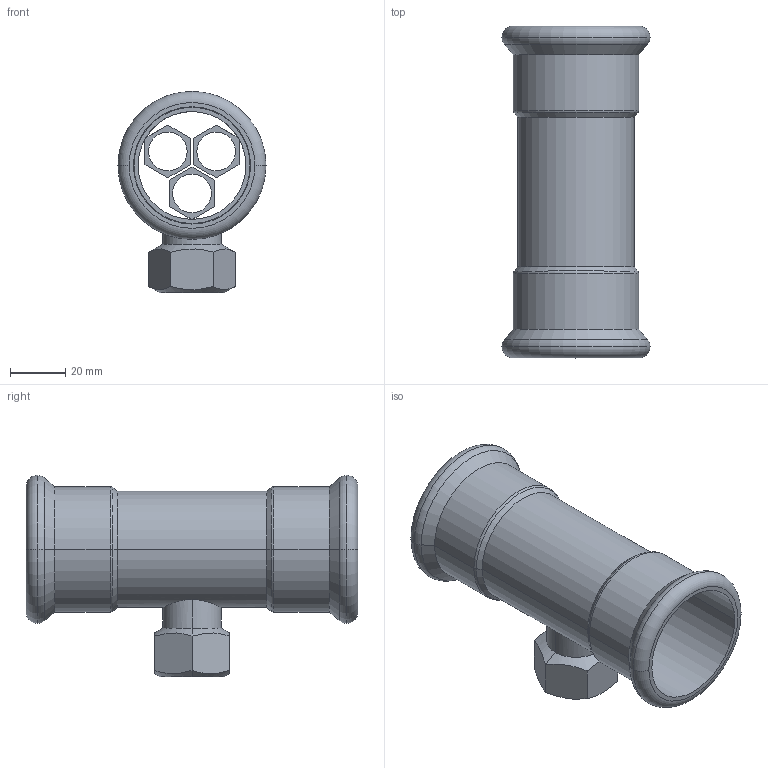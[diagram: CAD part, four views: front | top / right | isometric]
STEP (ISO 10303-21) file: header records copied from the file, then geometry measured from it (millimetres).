
FILE_DESCRIPTION(('OneSpaceDesigner STEP Export'),'2;1');
FILE_NAME('R2718 42xRp1-2x42.stp','2010-06-10T10:06:32',(''),(''),'OneSpace Designer STEP processor for AP214 (Solid Model)','OneSpace Modeling 15.00A 14-Mar-2007 (C) CoCreate Software GmbH','');
FILE_SCHEMA(('AUTOMOTIVE_DESIGN { 1 0 10303 214 1 1 1 1 }'));
Length unit declared in the file: millimetre
Products named in the file (2): R2718_42xRp1-2x42
Assembly tree (1 placements, depth 2):
  R2718_42xRp1-2x42
    R2718_42xRp1-2x42
Bounding box: 53.55 x 120 x 72.78 mm (x, y, z)
Volume: 41031.6 mm3; surface area: 41620.1 mm2
Topology: 1 solids, 1 shells, 181 faces, 456 edges, 291 vertices
Faces by surface type: plane 93, cylinder 56, cone 20, torus 12
Entity records: 6795 total; most frequent: CARTESIAN_POINT 2773, ORIENTED_EDGE 912, DIRECTION 699, EDGE_CURVE 456, VERTEX_POINT 291, VECTOR 279, LINE 279, EDGE_LOOP 215
